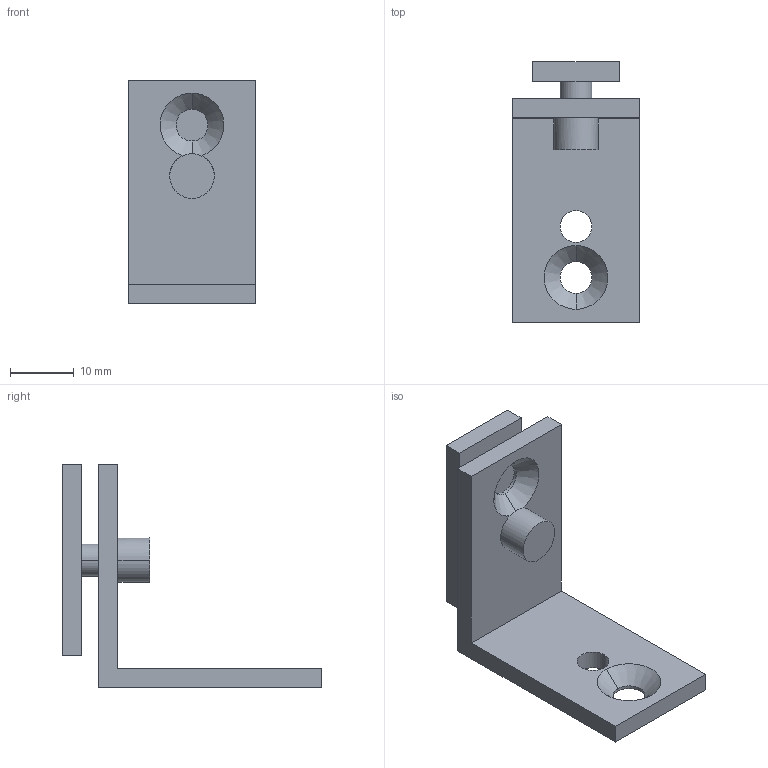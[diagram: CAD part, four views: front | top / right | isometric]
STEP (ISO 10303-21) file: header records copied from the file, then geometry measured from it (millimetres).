
FILE_DESCRIPTION( ( '' ), '1' );
FILE_NAME( 'D:/temp/hettich_stp/hettich/prodecor_handles/new_modern/9995930.stp', '2013-02-26T12:43:29', ( '' ), ( '' ), ' ', ' ', ' ' );
FILE_SCHEMA( ( 'automotive_design' ) );
Length unit declared in the file: millimetre
Products named in the file (1): 1
Bounding box: 20 x 40.75 x 35 mm (x, y, z)
Volume: 5182.8 mm3; surface area: 4389.2 mm2
Topology: 1 solids, 1 shells, 30 faces, 72 edges, 46 vertices
Faces by surface type: plane 16, cylinder 10, cone 4
Entity records: 1742 total; most frequent: DIRECTION 162, STYLED_ITEM 149, PRESENTATION_STYLE_ASSIGNMENT 149, CARTESIAN_POINT 149, COLOUR_RGB 149, ORIENTED_EDGE 144, EDGE_CURVE 72, CURVE_STYLE 72
